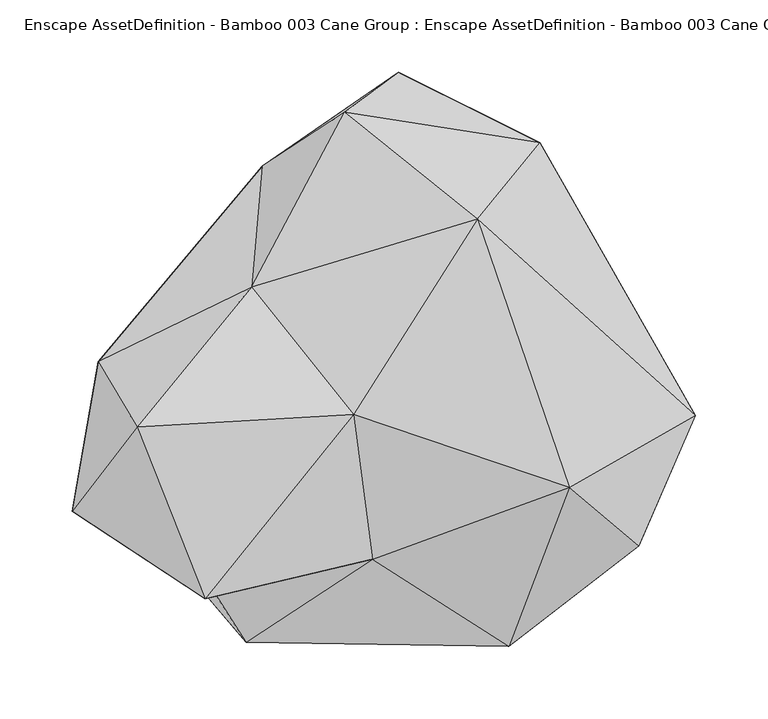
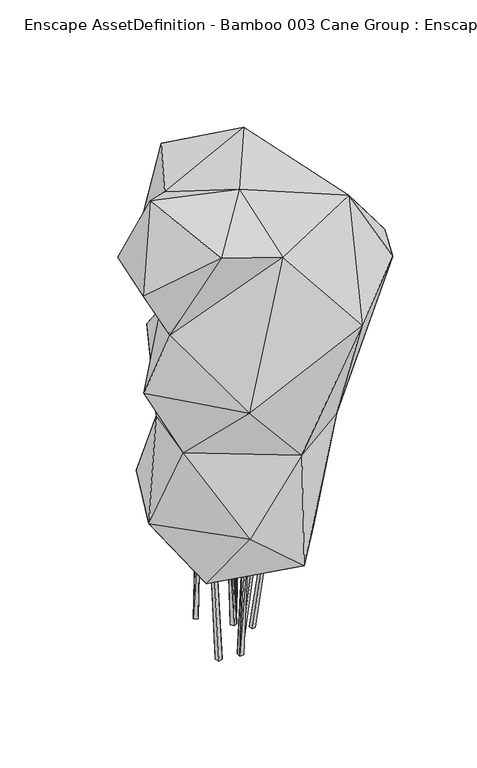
"""IFC4 building model written with IfcOpenShell, lengths in millimetres: geographic element geometry, Enscape AssetDefinition - Bamboo 003 Cane Group : Enscape AssetDefinition - Bamboo 003 Cane Group 2."""

from ifc_helpers import new_model, si_unit, origin, place, context, project, spatial, triangles, source, transform, mapped, element, save


def enscape_assetdefinition_bamboo_003_cane_group_enscape_a26ff348(model_context):
    return source(origin(), model_context, "Body", "Tessellation", [
        triangles([(4.8570136, 200.8746211, 715.7621246), (139.9989219, 179.6631251, 641.4134651), (41.9676327, 228.531672, 613.9769857), (-52.722118, 102.7351172, 511.9052728), (-52.2742665, 163.3302013, 611.2903765), (96.7790945, 126.6491645, 756.5239534), (109.6313442, 46.8874224, 339.4920685), (-35.2021073, 171.8627655, 437.0796802), (112.6234127, 114.6171772, 493.511083), (21.7324194, 148.7249609, 341.1330657), (114.819554, -38.8907766, 166.4960691), (-74.1013181, 134.2752524, 220.9299558), (-74.4732749, 77.1514681, 350.1205258), (-149.5644445, -32.2147261, 256.3901824), (-110.5036202, -61.7086198, 382.972336), (61.7713976, 151.3281995, 218.8120255), (-3.515807, 136.1608114, 159.1988401), (-74.5032558, -64.3929082, 146.4880516), (36.4266646, -147.6414151, 189.130734), (-52.8111251, -151.0920947, 268.236625), (140.8524581, -58.7081262, 360.9494797), (35.390427, -143.0368996, 376.7774016), (118.5902087, -169.0267104, 587.708967), (208.5995675, -99.484925, 632.112652), (247.6964543, -9.3476898, 610.6546595), (160.354529, -58.9910758, 729.7457188), (-131.2995892, -59.5855526, 590.8228395), (24.2850684, -108.7862377, 700.6697319), (-63.3004558, -166.4051953, 497.5305325), (11.1362786, -8.6393755, 761.8114214), (-138.8422883, -17.0899623, 800.0000061), (-91.7595245, -136.2849589, 756.7136221), (-59.5040396, 79.6235374, 728.4832232), (-183.8689912, -75.5516747, 686.4490156), (-165.7348329, 27.9985681, 684.6430939), (-165.8697265, -45.9949987, 495.4191424), (-50.3685644, -42.2473032, 179.954986), (-47.9480181, -43.4203375, -5.9143329), (-56.3353604, -43.7089055, 179.6692294), (-54.8751661, -49.6827323, 179.7394831), (-46.2770127, -50.254259, -5.8332882), (-39.4515254, -48.5813779, -5.5067706), (-41.1215906, -41.7479241, -5.5868774), (-48.9083655, -48.2206668, 180.0252578), (-19.2673718, 48.8235733, 201.3852549), (-19.5568822, 53.6688762, -0.585109), (-24.4986863, 57.9885616, -0.6446037), (-23.8737585, 51.6722911, 201.8031073), (-22.98743, 48.0740369, -0.5260828), (-28.6441069, 52.2836319, -0.585109), (-21.3913792, 43.8419506, 200.9678385), (-26.4591998, 46.5435707, 201.3852549), (28.3222742, 43.7777739, -2.0645119), (33.9035265, 41.8612939, 204.7511468), (35.0358043, 46.933804, 204.4489851), (26.3383383, 37.7706846, -2.1076105), (32.5876207, 35.9563309, -2.0645119), (39.1301606, 40.8751849, 204.4489851), (34.4460102, 42.1924964, -2.0214134), (40.1635868, 46.0919722, 204.1472775), (37.4591552, -0.2632756, -3.4722402), (69.1655956, -5.9110531, 195.5421159), (31.4928247, -1.7408048, -2.5479649), (67.9297971, -0.8006015, 195.7327838), (32.9534914, -7.7783429, -2.7732949), (62.8788427, -2.0509263, 196.5155849), (38.9188817, -6.300345, -3.6975702), (64.115109, -7.1618465, 196.3244446), (-6.1490319, -45.0618252, -8.1057972), (-6.0478441, -51.4001148, -8.0626988), (-1.3215313, -50.6131034, 198.4081656), (-6.5252064, -50.9616377, 198.7103273), (-12.4653047, -44.518876, -8.1488968), (-12.6639322, -51.1382485, -8.1057972), (-0.5073443, -55.7638382, 198.1060038), (-5.8820083, -56.3283341, 198.4081656), (5.2711342, -24.4124906, -3.7425424), (30.6083674, -29.4995189, 175.9988139), (6.5893859, -29.8503991, -3.9224319), (-0.1171155, -25.7429236, -3.0065888), (29.4920248, -24.8964114, 176.1506033), (1.201605, -31.1812976, -3.1864783), (24.9310795, -26.022594, 176.7736576), (26.0474222, -30.6261693, 176.6218863), (14.7312547, 11.9865367, -3.7823619), (6.9299583, 17.9772287, 167.7365639), (11.1999886, 17.4094524, -3.7383267), (20.485373, 14.9490898, -3.8263974), (10.338956, 13.6195947, 167.990927), (14.9940634, 16.6111931, 168.2453083), (17.060917, 20.7786304, -3.7823619), (11.634722, 21.2686418, 167.990927)], [[92, 87, 86], [92, 91, 87], [91, 92, 90], [91, 90, 88], [88, 90, 89], [88, 89, 85], [85, 86, 87], [85, 89, 86], [82, 78, 84], [82, 79, 78], [82, 84, 83], [82, 83, 80], [80, 83, 81], [80, 81, 77], [77, 78, 79], [77, 81, 78], [74, 75, 76], [74, 70, 75], [74, 76, 72], [74, 72, 73], [73, 72, 71], [73, 71, 69], [69, 75, 70], [69, 71, 75], [65, 62, 68], [65, 67, 62], [65, 68, 66], [65, 66, 63], [63, 66, 64], [63, 64, 61], [61, 62, 67], [61, 64, 62], [57, 60, 58], [57, 59, 60], [57, 58, 54], [57, 54, 56], [56, 54, 55], [56, 55, 53], [53, 60, 59], [53, 55, 60], [50, 51, 52], [50, 49, 51], [50, 52, 48], [50, 48, 47], [47, 48, 45], [47, 45, 46], [46, 51, 49], [46, 45, 51], [43, 37, 44], [43, 44, 42], [40, 42, 44], [40, 41, 42], [41, 40, 39], [41, 39, 38], [38, 37, 43], [38, 39, 37], [36, 29, 27], [4, 36, 27], [27, 5, 4], [35, 27, 34], [5, 27, 35], [5, 35, 33], [35, 34, 31], [33, 35, 31], [32, 34, 27], [32, 31, 34], [30, 33, 31], [30, 31, 32], [6, 33, 30], [28, 27, 29], [28, 32, 27], [28, 30, 32], [26, 30, 28], [6, 30, 26], [25, 6, 26], [25, 26, 24], [23, 26, 28], [28, 29, 23], [26, 23, 24], [24, 23, 21], [25, 24, 21], [11, 21, 19], [23, 29, 22], [21, 23, 22], [21, 22, 19], [29, 36, 15], [4, 15, 36], [29, 15, 22], [22, 15, 20], [22, 20, 19], [15, 14, 20], [20, 18, 19], [14, 18, 20], [19, 18, 11], [11, 18, 17], [16, 11, 17], [12, 18, 14], [16, 17, 12], [12, 17, 18], [4, 13, 15], [13, 12, 14], [13, 14, 15], [4, 8, 13], [13, 8, 10], [16, 12, 10], [13, 10, 12], [7, 21, 11], [10, 7, 16], [7, 11, 16], [25, 21, 7], [8, 9, 10], [4, 9, 8], [7, 10, 9], [2, 7, 9], [25, 2, 6], [25, 7, 2], [6, 1, 33], [2, 1, 6], [33, 1, 5], [9, 4, 3], [3, 2, 9], [1, 2, 3], [3, 4, 5], [3, 5, 1]], closed=False),
    ])


if __name__ == "__main__":
    model = new_model("IFC4")
    model_context = context("Model", 3, world=origin())
    ifc_project = project(units=[si_unit("LENGTHUNIT", "METRE", prefix="MILLI")], contexts=[model_context])
    site = spatial("IfcSite", under=ifc_project)
    building = spatial("IfcBuilding", under=site)
    placement = place(None, origin())
    enscape_assetdefinition_bamboo_003_cane_group_enscape_shape = enscape_assetdefinition_bamboo_003_cane_group_enscape_a26ff348(model_context)
    element("IfcGeographicElement", 1, ObjectType="Enscape AssetDefinition - Bamboo 003 Cane Group : Enscape AssetDefinition - Bamboo 003 Cane Group 2", at=placement, inside=building, context=model_context, shape_type="MappedRepresentation", body=[
        mapped(enscape_assetdefinition_bamboo_003_cane_group_enscape_shape, transform((0.0, 0.0, 0.0), x_axis=(1.0, 0.0, 0.0), y_axis=(0.0, 1.0, 0.0), z_axis=(0.0, 0.0, 1.0))),
    ])
    save(model, "model.ifc")
